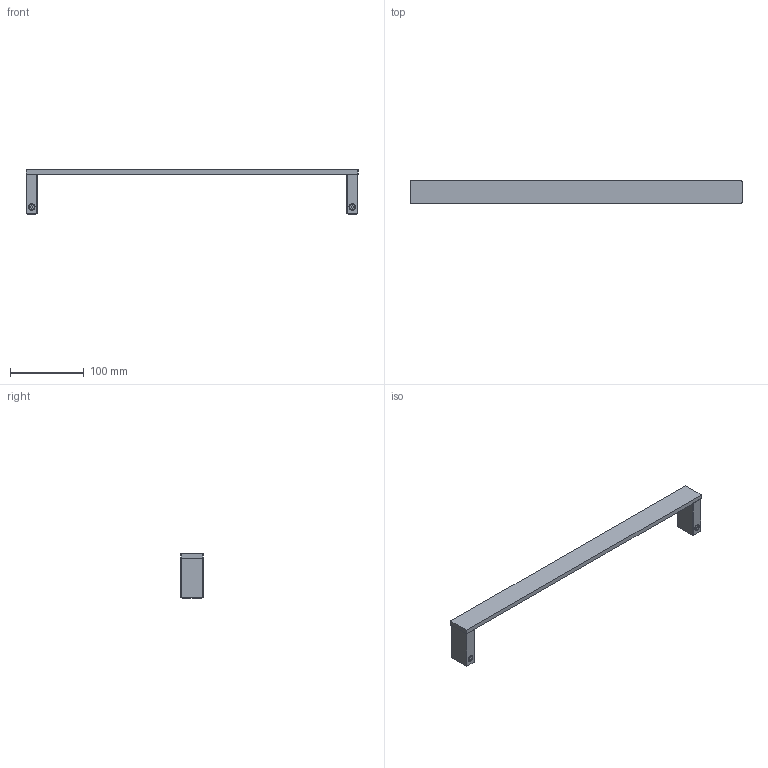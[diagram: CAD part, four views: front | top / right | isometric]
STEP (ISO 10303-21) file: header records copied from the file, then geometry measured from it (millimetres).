
FILE_DESCRIPTION (( 'STEP AP214' ), '1' );
FILE_NAME ('36001D-00-00.STEP', '2019-06-19T08:53:17', ( '' ), ( '' ), 'SwSTEP 2.0', 'SolidWorks 2011', '' );
FILE_SCHEMA (( 'AUTOMOTIVE_DESIGN' ));
Length unit declared in the file: millimetre
Products named in the file (1): 36001D-00-00
Bounding box: 450.5 x 30.5 x 60.7 mm (x, y, z)
Surface area: 51287.4 mm2 (no closed solid volume)
Topology: 0 solids, 11 shells, 118 faces, 368 edges, 260 vertices
Faces by surface type: plane 64, cylinder 50, cone 4
Entity records: 5459 total; most frequent: CARTESIAN_POINT 807, DIRECTION 736, ORIENTED_EDGE 586, EDGE_CURVE 368, VERTEX_POINT 260, AXIS2_PLACEMENT_3D 253, LINE 230, VECTOR 230
